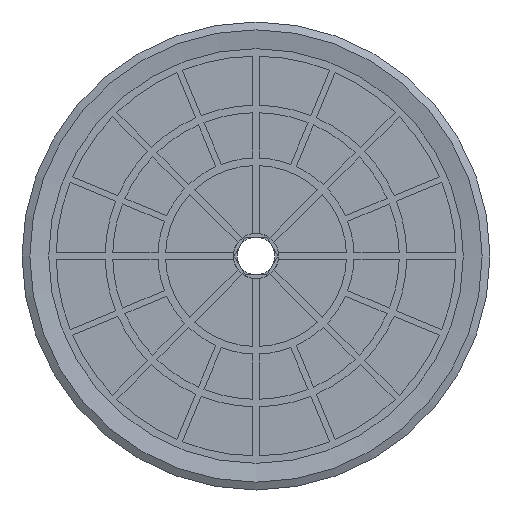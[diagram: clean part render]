
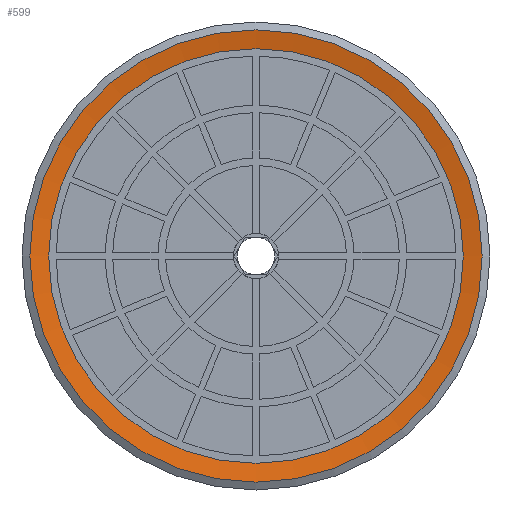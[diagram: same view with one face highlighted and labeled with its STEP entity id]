
A CAD part, front view. The second image highlights one B-rep face of the part: STEP entity #599.
In plain terms, the highlighted conical face has half-angle 80 degrees and reference radius 15 mm.
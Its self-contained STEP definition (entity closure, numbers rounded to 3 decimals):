
#599=ADVANCED_FACE('',(#1098,#1099),#1100,.F.);
#1098=FACE_BOUND('',#1902,.T.);
#1099=FACE_OUTER_BOUND('',#1903,.T.);
#1100=CONICAL_SURFACE('',#1904,15.0,1.396);
#1902=EDGE_LOOP('',(#3248));
#1903=EDGE_LOOP('',(#3249));
#1904=AXIS2_PLACEMENT_3D('',#3250,#3251,#3252);
#3248=ORIENTED_EDGE('',*,*,#5437,.T.);
#3249=ORIENTED_EDGE('',*,*,#5438,.F.);
#3250=CARTESIAN_POINT('',(0.0,0.,0.));
#3251=DIRECTION('',(0.0,0.,-1.0));
#3252=DIRECTION('',(0.0,1.0,0.));
#5437=EDGE_CURVE('',#6497,#6497,#6498,.T.);
#5438=EDGE_CURVE('',#6499,#6499,#6500,.T.);
#6497=VERTEX_POINT('',#8296);
#6498=CIRCLE('',#8297,13.75);
#6499=VERTEX_POINT('',#8298);
#6500=CIRCLE('',#8299,15.0);
#8296=CARTESIAN_POINT('',(0.0,-13.75,0.22));
#8297=AXIS2_PLACEMENT_3D('',#9889,#9890,#9891);
#8298=CARTESIAN_POINT('',(0.0,-15.0,0.));
#8299=AXIS2_PLACEMENT_3D('',#9892,#9893,#9894);
#9889=CARTESIAN_POINT('',(0.0,0.,0.22));
#9890=DIRECTION('',(0.0,0.,1.0));
#9891=DIRECTION('',(0.0,-1.0,0.));
#9892=CARTESIAN_POINT('',(0.0,0.,0.));
#9893=DIRECTION('',(0.0,0.,1.0));
#9894=DIRECTION('',(0.0,-1.0,0.));
